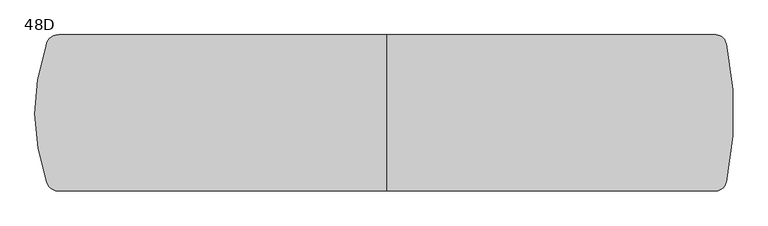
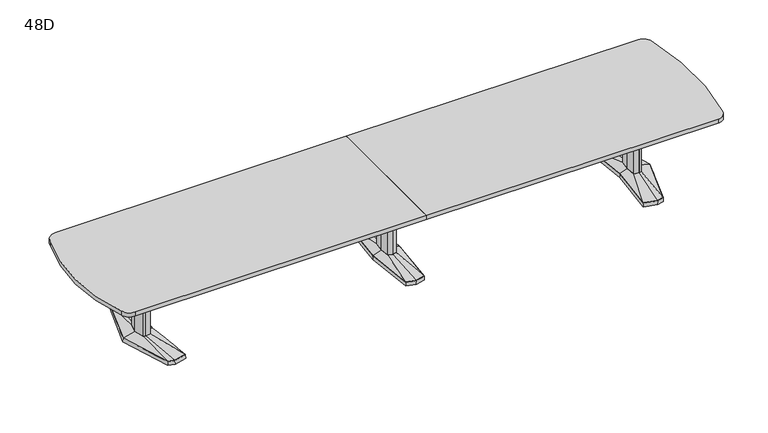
"""IFC4 building model written with IfcOpenShell, lengths in millimetres: furniture geometry, Coalesse_AM_Table_Conference_ETable2_SoftRadiused_18ft_AluminiumBase : 48D."""

from ifc_helpers import new_model, si_unit, point, frame, frame_2d, origin, place, context, project, spatial, polyline, circle_curve, trimmed, segment, composite_curve, outline, extrude, faceted_brep, source, transform, mapped, element, save
from ifc_brep_helpers import plane_surface, spline_surface, advanced_brep


def furniture_48d_4548b4cb(model_context):
    return source(origin(), model_context, "Body", "SolidModel", [
        faceted_brep([(-81.2333791, -433.8053819, 38.1), (0.0, -455.556576, 38.1), (81.2333791, -433.8053819, 38.1), (119.0564774, 0.0, 38.1), (81.2333791, 433.8053819, 38.1), (0.0, 455.556576, 38.1), (-81.2333791, 433.8053819, 38.1), (-119.0564774, 0.0, 38.1), (-82.7182795, -435.0512063, 3.175), (-120.65, 0.0, 3.175), (-82.7182795, 435.0512063, 3.175), (0.0, 457.2, 3.175), (82.7182795, 435.0512063, 3.175), (120.65, 0.0, 3.175), (82.7182795, -435.0512063, 3.175), (0.0, -457.2, 3.175), (0.0, 429.2617927, 3.175), (-77.9676806, 408.3850278, 3.175), (-74.7019821, 382.9646737, 3.175), (0.0, 402.9670094, 3.175), (74.7019821, 382.9646737, 3.175), (77.9676806, 408.3850278, 3.175), (0.0, -429.2617927, 3.175), (77.9676806, -408.3850278, 3.175), (74.7019821, -382.9646737, 3.175), (0.0, -402.9670094, 3.175), (-74.7019821, -382.9646737, 3.175), (-77.9676806, -408.3850278, 3.175), (-71.8574262, 114.6326257, 3.175), (-82.5426076, 0.0, 3.175), (-71.8574262, -114.6326257, 3.175), (0.0, -133.8761372, 3.175), (71.8574262, -114.6326257, 3.175), (82.5426076, 0.0, 3.175), (71.8574262, 114.6326257, 3.175), (0.0, 133.8761372, 3.175), (0.0, 429.2617927, 0.0), (77.9676806, 408.3850278, 0.0), (74.7019821, 382.9646737, 0.0), (0.0, 402.9670094, 0.0), (-74.7019821, 382.9646737, 0.0), (-77.9676806, 408.3850278, 0.0), (0.0, -429.2617927, 0.0), (-77.9676806, -408.3850278, 0.0), (-74.7019821, -382.9646737, 0.0), (0.0, -402.9670094, 0.0), (74.7019821, -382.9646737, 0.0), (77.9676806, -408.3850278, 0.0), (-71.8574262, 114.6326257, 0.0), (0.0, 133.8761372, 0.0), (71.8574262, 114.6326257, 0.0), (82.5426076, 0.0, 0.0), (71.8574262, -114.6326257, 0.0), (0.0, -133.8761372, 0.0), (-71.8574262, -114.6326257, 0.0), (-82.5426076, 0.0, 0.0)], [[[0, 1, 2, 3, 4, 5, 6, 7]], [[8, 9, 10, 11, 12, 13, 14, 15], [16, 17, 18, 19, 20, 21], [22, 23, 24, 25, 26, 27], [28, 29, 30, 31, 32, 33, 34, 35]], [[1, 0, 8, 15]], [[2, 1, 15, 14]], [[3, 2, 14, 13]], [[4, 3, 13, 12]], [[5, 4, 12, 11]], [[6, 5, 11, 10]], [[7, 6, 10, 9]], [[0, 7, 9, 8]], [[36, 37, 38, 39, 40, 41]], [[42, 43, 44, 45, 46, 47]], [[48, 49, 50, 51, 52, 53, 54, 55]], [[36, 41, 17, 16]], [[41, 40, 18, 17]], [[40, 39, 19, 18]], [[39, 38, 20, 19]], [[38, 37, 21, 20]], [[37, 36, 16, 21]], [[42, 47, 23, 22]], [[47, 46, 24, 23]], [[46, 45, 25, 24]], [[45, 44, 26, 25]], [[44, 43, 27, 26]], [[43, 42, 22, 27]], [[48, 55, 29, 28]], [[55, 54, 30, 29]], [[54, 53, 31, 30]], [[53, 52, 32, 31]], [[52, 51, 33, 32]], [[51, 50, 34, 33]], [[50, 49, 35, 34]], [[49, 48, 28, 35]]]),
        faceted_brep([(-36.3832834, 84.6900825, 698.5), (-44.2774487, 0.0, 698.5), (-36.3832834, -84.6900825, 698.5), (0.0, -94.4335728, 698.5), (36.3832834, -84.6900825, 698.5), (44.2774487, 0.0, 698.5), (36.3832834, 84.6900825, 698.5), (0.0, 94.4335728, 698.5), (-36.3832834, 84.6900825, 63.5), (0.0, 94.4335728, 63.5), (36.3832834, 84.6900825, 63.5), (44.2774487, 0.0, 63.5), (36.3832834, -84.6900825, 63.5), (0.0, -94.4335728, 63.5), (-36.3832834, -84.6900825, 63.5), (-44.2774487, 0.0, 63.5)], [[[0, 1, 2, 3, 4, 5, 6, 7]], [[8, 9, 10, 11, 12, 13, 14, 15]], [[1, 0, 8, 15]], [[2, 1, 15, 14]], [[3, 2, 14, 13]], [[4, 3, 13, 12]], [[5, 4, 12, 11]], [[6, 5, 11, 10]], [[7, 6, 10, 9]], [[0, 7, 9, 8]]]),
        advanced_brep(
        [(-36.3832834, 84.6900825, 63.5), (-44.2774487, 0.0, 63.5), (-36.3832834, -84.6900825, 63.5), (0.0, -94.4335728, 63.5), (36.3832834, -84.6900825, 63.5), (44.2774487, 0.0, 63.5), (36.3832834, 84.6900825, 63.5), (0.0, 94.4335728, 63.5), (-81.2333791, 433.8053819, 38.1), (0.0, 455.556576, 38.1), (81.2333791, 433.8053819, 38.1), (119.0564774, 0.0, 38.1), (81.2333791, -433.8053819, 38.1), (0.0, -455.556576, 38.1), (-81.2333791, -433.8053819, 38.1), (-119.0564774, 0.0, 38.1)],
        [
            (0, 1),
            (1, 2),
            (2, 3),
            (3, 4),
            (4, 5),
            (5, 6),
            (6, 7),
            (7, 0),
            (8, 9),
            (9, 10),
            (10, 11),
            (11, 12),
            (12, 13),
            (13, 14),
            (14, 15),
            (15, 8),
            (15, 1),
            (0, 8),
            (14, 2),
            (13, 3),
            (12, 4),
            (11, 5),
            (10, 6),
            (9, 7),
        ],
        [
            plane_surface(frame((0.0, 0.0, 63.5), z_axis=(0.0, 0.0, 1.0000000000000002), x_axis=(-0.9659615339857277, -0.25868574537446, 0.0))),
            plane_surface(frame((0.0, 0.0, 38.1), z_axis=(0.0, 0.0, -1.0000000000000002), x_axis=(-0.9659615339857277, -0.25868574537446, 0.0))),
            spline_surface(1, 1, [[(-81.2333791, 433.8053819, 38.1), (-36.3832834, 84.6900825, 63.5)], [(-119.0564774, 0.0, 38.1), (-44.2774487, 0.0, 63.5)]], [2, 2], [2, 2], [0.0, 1.0], [0.0, 1.0]),
            spline_surface(1, 1, [[(-119.0564774, 0.0, 38.1), (-44.2774487, 0.0, 63.5)], [(-81.2333791, -433.8053819, 38.1), (-36.3832834, -84.6900825, 63.5)]], [2, 2], [2, 2], [0.0, 1.0], [0.0, 1.0]),
            spline_surface(1, 1, [[(-81.2333791, -433.8053819, 38.1), (-36.3832834, -84.6900825, 63.5)], [(0.0, -455.556576, 38.1), (0.0, -94.4335728, 63.5)]], [2, 2], [2, 2], [0.0, 1.0], [0.0, 1.0]),
            spline_surface(1, 1, [[(0.0, -455.556576, 38.1), (0.0, -94.4335728, 63.5)], [(81.2333791, -433.8053819, 38.1), (36.3832834, -84.6900825, 63.5)]], [2, 2], [2, 2], [0.0, 1.0], [0.0, 1.0]),
            spline_surface(1, 1, [[(81.2333791, -433.8053819, 38.1), (36.3832834, -84.6900825, 63.5)], [(119.0564774, 0.0, 38.1), (44.2774487, 0.0, 63.5)]], [2, 2], [2, 2], [0.0, 1.0], [0.0, 1.0]),
            spline_surface(1, 1, [[(119.0564774, 0.0, 38.1), (44.2774487, 0.0, 63.5)], [(81.2333791, 433.8053819, 38.1), (36.3832834, 84.6900825, 63.5)]], [2, 2], [2, 2], [0.0, 1.0], [0.0, 1.0]),
            spline_surface(1, 1, [[(81.2333791, 433.8053819, 38.1), (36.3832834, 84.6900825, 63.5)], [(0.0, 455.556576, 38.1), (0.0, 94.4335728, 63.5)]], [2, 2], [2, 2], [0.0, 1.0], [0.0, 1.0]),
            spline_surface(1, 1, [[(0.0, 455.556576, 38.1), (0.0, 94.4335728, 63.5)], [(-81.2333791, 433.8053819, 38.1), (-36.3832834, 84.6900825, 63.5)]], [2, 2], [2, 2], [0.0, 1.0], [0.0, 1.0]),
        ],
        [
            (0, [[1, 2, 3, 4, 5, 6, 7, 8]]),
            (1, [[9, 10, 11, 12, 13, 14, 15, 16]]),
            (2, [[-16, 17, -1, 18]]),
            (3, [[-15, 19, -2, -17]]),
            (4, [[-14, 20, -3, -19]]),
            (5, [[-13, 21, -4, -20]]),
            (6, [[-12, 22, -5, -21]]),
            (7, [[-11, 23, -6, -22]]),
            (8, [[-10, 24, -7, -23]]),
            (9, [[-9, -18, -8, -24]]),
        ],
    ),
        faceted_brep([(2125.0306835, 455.5848221, 38.1), (2015.4531277, 426.2263816, 38.1), (2056.6163717, 0.0, 38.1), (2015.4531277, -426.2263816, 38.1), (2125.0306835, -455.5848221, 38.1), (2181.1570396, -440.5478297, 38.1), (2318.4684269, 0.0, 38.1), (2181.1570396, 440.5478297, 38.1), (2125.0306754, 457.2283104, 3.175), (2182.4124472, 441.8549756, 3.175), (2320.13125, 0.0, 3.175), (2182.4124472, -441.8549756, 3.175), (2125.0306754, -457.2283104, 3.175), (2013.74375, -427.4118891, 3.175), (2055.0214856, 0.0, 3.175), (2013.74375, 427.4118891, 3.175), (2128.620115, 428.3273875, 3.175), (2023.5718228, 402.1057253, 3.175), (2031.690518, 377.985069, 3.175), (2132.2095466, 401.0699529, 3.175), (2182.7691725, 387.524361, 3.175), (2181.9631061, 414.0360954, 3.175), (2128.620115, -428.3273875, 3.175), (2181.9631061, -414.0360954, 3.175), (2182.7691725, -387.524361, 3.175), (2132.2095466, -401.0699529, 3.175), (2031.690518, -377.985069, 3.175), (2023.5718228, -402.1057253, 3.175), (2255.2153621, 0.0, 3.175), (2222.9459611, 120.4193755, 3.175), (2174.2987222, 133.471665, 3.175), (2094.4180526, 119.4176561, 3.175), (2083.2868466, 0.0, 3.175), (2094.4180526, -119.4176561, 3.175), (2174.2987222, -133.471665, 3.175), (2222.9459611, -120.4193755, 3.175), (2128.620115, 428.3273875, 0.0), (2181.9631061, 414.0360954, 0.0), (2182.7691725, 387.524361, 0.0), (2132.2095466, 401.0699529, 0.0), (2031.690518, 377.985069, 0.0), (2023.5718228, 402.1057253, 0.0), (2128.620115, -428.3273875, 0.0), (2023.5718228, -402.1057253, 0.0), (2031.690518, -377.985069, 0.0), (2132.2095466, -401.0699529, 0.0), (2182.7691725, -387.524361, 0.0), (2181.9631061, -414.0360954, 0.0), (2255.2153621, 0.0, 0.0), (2222.9459611, -120.4193755, 0.0), (2174.2987222, -133.471665, 0.0), (2094.4180526, -119.4176561, 0.0), (2083.2868466, 0.0, 0.0), (2094.4180526, 119.4176561, 0.0), (2174.2987222, 133.471665, 0.0), (2222.9459611, 120.4193755, 0.0)], [[[0, 1, 2, 3, 4, 5, 6, 7]], [[8, 9, 10, 11, 12, 13, 14, 15], [16, 17, 18, 19, 20, 21], [22, 23, 24, 25, 26, 27], [28, 29, 30, 31, 32, 33, 34, 35]], [[7, 9, 8, 0]], [[6, 10, 9, 7]], [[5, 11, 10, 6]], [[4, 12, 11, 5]], [[3, 13, 12, 4]], [[2, 14, 13, 3]], [[1, 15, 14, 2]], [[0, 8, 15, 1]], [[36, 37, 38, 39, 40, 41]], [[42, 43, 44, 45, 46, 47]], [[48, 49, 50, 51, 52, 53, 54, 55]], [[36, 16, 21, 37]], [[37, 21, 20, 38]], [[38, 20, 19, 39]], [[39, 19, 18, 40]], [[40, 18, 17, 41]], [[41, 17, 16, 36]], [[42, 22, 27, 43]], [[43, 27, 26, 44]], [[44, 26, 25, 45]], [[45, 25, 24, 46]], [[46, 24, 23, 47]], [[47, 23, 22, 42]], [[48, 28, 35, 49]], [[49, 35, 34, 50]], [[50, 34, 33, 51]], [[51, 33, 32, 52]], [[52, 32, 31, 53]], [[53, 31, 30, 54]], [[54, 30, 29, 55]], [[55, 29, 28, 48]]]),
        faceted_brep([(2215.7710836, 0.0, 698.5), (2191.8358546, 89.3188359, 698.5), (2174.9824984, 93.8406728, 698.5), (2172.5826511, 94.4845635, 698.5), (2129.655146, 86.9320037, 698.5), (2121.5520056, 0.0, 698.5), (2129.655146, -86.9320037, 698.5), (2172.5826511, -94.4845635, 698.5), (2174.9824984, -93.8406728, 698.5), (2191.8358546, -89.3188359, 698.5), (2215.7710836, 0.0, 63.5), (2191.8358546, -89.3188359, 63.5), (2174.9824984, -93.8406728, 63.5), (2172.5826511, -94.4845635, 63.5), (2129.655146, -86.9320037, 63.5), (2121.5520056, 0.0, 63.5), (2129.655146, 86.9320037, 63.5), (2172.5826511, 94.4845635, 63.5), (2174.9824984, 93.8406728, 63.5), (2191.8358546, 89.3188359, 63.5)], [[[0, 1, 2, 3, 4, 5, 6, 7, 8, 9]], [[10, 11, 12, 13, 14, 15, 16, 17, 18, 19]], [[9, 11, 10, 0]], [[8, 12, 11, 9]], [[7, 13, 12, 8]], [[6, 14, 13, 7]], [[5, 15, 14, 6]], [[4, 16, 15, 5]], [[3, 17, 16, 4]], [[2, 18, 17, 3]], [[1, 19, 18, 2]], [[0, 10, 19, 1]]]),
        advanced_brep(
        [(2172.5826511, 94.4845635, 63.5), (2129.655146, 86.9320037, 63.5), (2121.5520056, 0.0, 63.5), (2129.655146, -86.9320037, 63.5), (2172.5826511, -94.4845635, 63.5), (2191.8358546, -89.3188359, 63.5), (2215.7710836, 0.0, 63.5), (2191.8358546, 89.3188359, 63.5), (2125.0306835, 455.5848221, 38.1), (2181.1570396, 440.5478297, 38.1), (2318.4684269, 0.0, 38.1), (2181.1570396, -440.5478297, 38.1), (2125.0306835, -455.5848221, 38.1), (2015.4531277, -426.2263816, 38.1), (2056.6163717, 0.0, 38.1), (2015.4531277, 426.2263816, 38.1)],
        [
            (0, 1),
            (1, 2),
            (2, 3),
            (3, 4),
            (4, 5),
            (5, 6),
            (6, 7),
            (7, 0),
            (8, 9),
            (9, 10),
            (10, 11),
            (11, 12),
            (12, 13),
            (13, 14),
            (14, 15),
            (15, 8),
            (8, 0),
            (7, 9),
            (6, 10),
            (5, 11),
            (4, 12),
            (3, 13),
            (2, 14),
            (1, 15),
        ],
        [
            plane_surface(frame((2165.6837991, 0.0, 63.5), z_axis=(0.0, 0.0, 1.0), x_axis=(-0.25884244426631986, -0.9659195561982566, 0.0))),
            plane_surface(frame((2127.2958125, 0.0, 38.1), z_axis=(0.0, 0.0, -1.0), x_axis=(-0.25884244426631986, -0.9659195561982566, 0.0))),
            spline_surface(1, 1, [[(2125.0306835, 455.5848221, 38.1), (2181.1570396, 440.5478297, 38.1)], [(2172.5826511, 94.4845635, 63.5), (2191.8358546, 89.3188359, 63.5)]], [2, 2], [2, 2], [0.0, 1.0], [0.0, 1.0]),
            spline_surface(1, 1, [[(2181.1570396, 440.5478297, 38.1), (2318.4684269, 0.0, 38.1)], [(2191.8358546, 89.3188359, 63.5), (2215.7710836, 0.0, 63.5)]], [2, 2], [2, 2], [0.0, 1.0], [0.0, 1.0]),
            spline_surface(1, 1, [[(2318.4684269, 0.0, 38.1), (2181.1570396, -440.5478297, 38.1)], [(2215.7710836, 0.0, 63.5), (2191.8358546, -89.3188359, 63.5)]], [2, 2], [2, 2], [0.0, 1.0], [0.0, 1.0]),
            spline_surface(1, 1, [[(2181.1570396, -440.5478297, 38.1), (2125.0306835, -455.5848221, 38.1)], [(2191.8358546, -89.3188359, 63.5), (2172.5826511, -94.4845635, 63.5)]], [2, 2], [2, 2], [0.0, 1.0], [0.0, 1.0]),
            spline_surface(1, 1, [[(2125.0306835, -455.5848221, 38.1), (2015.4531277, -426.2263816, 38.1)], [(2172.5826511, -94.4845635, 63.5), (2129.655146, -86.9320037, 63.5)]], [2, 2], [2, 2], [0.0, 1.0], [0.0, 1.0]),
            spline_surface(1, 1, [[(2015.4531277, -426.2263816, 38.1), (2056.6163717, 0.0, 38.1)], [(2129.655146, -86.9320037, 63.5), (2121.5520056, 0.0, 63.5)]], [2, 2], [2, 2], [0.0, 1.0], [0.0, 1.0]),
            spline_surface(1, 1, [[(2056.6163717, 0.0, 38.1), (2015.4531277, 426.2263816, 38.1)], [(2121.5520056, 0.0, 63.5), (2129.655146, 86.9320037, 63.5)]], [2, 2], [2, 2], [0.0, 1.0], [0.0, 1.0]),
            spline_surface(1, 1, [[(2015.4531277, 426.2263816, 38.1), (2125.0306835, 455.5848221, 38.1)], [(2129.655146, 86.9320037, 63.5), (2172.5826511, 94.4845635, 63.5)]], [2, 2], [2, 2], [0.0, 1.0], [0.0, 1.0]),
        ],
        [
            (0, [[1, 2, 3, 4, 5, 6, 7, 8]]),
            (1, [[9, 10, 11, 12, 13, 14, 15, 16]]),
            (2, [[17, -8, 18, -9]]),
            (3, [[-18, -7, 19, -10]]),
            (4, [[-19, -6, 20, -11]]),
            (5, [[-20, -5, 21, -12]]),
            (6, [[-21, -4, 22, -13]]),
            (7, [[-22, -3, 23, -14]]),
            (8, [[-23, -2, 24, -15]]),
            (9, [[-24, -1, -17, -16]]),
        ],
    ),
        faceted_brep([(-2125.0306835, 455.5848221, 38.1), (-2181.1570396, 440.5478297, 38.1), (-2318.4684269, 0.0, 38.1), (-2181.1570396, -440.5478297, 38.1), (-2125.0306835, -455.5848221, 38.1), (-2015.4531277, -426.2263816, 38.1), (-2056.6163717, 0.0, 38.1), (-2015.4531277, 426.2263816, 38.1), (-2125.0306754, 457.2283104, 3.175), (-2013.74375, 427.4118891, 3.175), (-2055.0214856, 0.0, 3.175), (-2013.74375, -427.4118891, 3.175), (-2125.0306754, -457.2283104, 3.175), (-2182.4124472, -441.8549756, 3.175), (-2320.13125, 0.0, 3.175), (-2182.4124472, 441.8549756, 3.175), (-2128.620115, 428.3273875, 3.175), (-2181.9631061, 414.0360954, 3.175), (-2182.7691725, 387.524361, 3.175), (-2132.2095466, 401.0699529, 3.175), (-2031.690518, 377.985069, 3.175), (-2023.5718228, 402.1057253, 3.175), (-2128.620115, -428.3273875, 3.175), (-2023.5718228, -402.1057253, 3.175), (-2031.690518, -377.985069, 3.175), (-2132.2095466, -401.0699529, 3.175), (-2182.7691725, -387.524361, 3.175), (-2181.9631061, -414.0360954, 3.175), (-2255.2153621, 0.0, 3.175), (-2222.9459611, -120.4193755, 3.175), (-2174.2987222, -133.471665, 3.175), (-2094.4180526, -119.4176561, 3.175), (-2083.2868466, 0.0, 3.175), (-2094.4180526, 119.4176561, 3.175), (-2174.2987222, 133.471665, 3.175), (-2222.9459611, 120.4193755, 3.175), (-2128.620115, 428.3273875, 0.0), (-2023.5718228, 402.1057253, 0.0), (-2031.690518, 377.985069, 0.0), (-2132.2095466, 401.0699529, 0.0), (-2182.7691725, 387.524361, 0.0), (-2181.9631061, 414.0360954, 0.0), (-2128.620115, -428.3273875, 0.0), (-2181.9631061, -414.0360954, 0.0), (-2182.7691725, -387.524361, 0.0), (-2132.2095466, -401.0699529, 0.0), (-2031.690518, -377.985069, 0.0), (-2023.5718228, -402.1057253, 0.0), (-2255.2153621, 0.0, 0.0), (-2222.9459611, 120.4193755, 0.0), (-2174.2987222, 133.471665, 0.0), (-2094.4180526, 119.4176561, 0.0), (-2083.2868466, 0.0, 0.0), (-2094.4180526, -119.4176561, 0.0), (-2174.2987222, -133.471665, 0.0), (-2222.9459611, -120.4193755, 0.0)], [[[0, 1, 2, 3, 4, 5, 6, 7]], [[8, 9, 10, 11, 12, 13, 14, 15], [16, 17, 18, 19, 20, 21], [22, 23, 24, 25, 26, 27], [28, 29, 30, 31, 32, 33, 34, 35]], [[1, 0, 8, 15]], [[2, 1, 15, 14]], [[3, 2, 14, 13]], [[4, 3, 13, 12]], [[5, 4, 12, 11]], [[6, 5, 11, 10]], [[7, 6, 10, 9]], [[0, 7, 9, 8]], [[36, 37, 38, 39, 40, 41]], [[42, 43, 44, 45, 46, 47]], [[48, 49, 50, 51, 52, 53, 54, 55]], [[36, 41, 17, 16]], [[41, 40, 18, 17]], [[40, 39, 19, 18]], [[39, 38, 20, 19]], [[38, 37, 21, 20]], [[37, 36, 16, 21]], [[42, 47, 23, 22]], [[47, 46, 24, 23]], [[46, 45, 25, 24]], [[45, 44, 26, 25]], [[44, 43, 27, 26]], [[43, 42, 22, 27]], [[48, 55, 29, 28]], [[55, 54, 30, 29]], [[54, 53, 31, 30]], [[53, 52, 32, 31]], [[52, 51, 33, 32]], [[51, 50, 34, 33]], [[50, 49, 35, 34]], [[49, 48, 28, 35]]]),
        faceted_brep([(-2215.7710836, 0.0, 698.5), (-2191.8358546, -89.3188359, 698.5), (-2174.9824984, -93.8406728, 698.5), (-2172.5826511, -94.4845635, 698.5), (-2129.655146, -86.9320037, 698.5), (-2121.5520056, 0.0, 698.5), (-2129.655146, 86.9320037, 698.5), (-2172.5826511, 94.4845635, 698.5), (-2174.9824984, 93.8406728, 698.5), (-2191.8358546, 89.3188359, 698.5), (-2215.7710836, 0.0, 63.5), (-2191.8358546, 89.3188359, 63.5), (-2174.9824984, 93.8406728, 63.5), (-2172.5826511, 94.4845635, 63.5), (-2129.655146, 86.9320037, 63.5), (-2121.5520056, 0.0, 63.5), (-2129.655146, -86.9320037, 63.5), (-2172.5826511, -94.4845635, 63.5), (-2174.9824984, -93.8406728, 63.5), (-2191.8358546, -89.3188359, 63.5)], [[[0, 1, 2, 3, 4, 5, 6, 7, 8, 9]], [[10, 11, 12, 13, 14, 15, 16, 17, 18, 19]], [[1, 0, 10, 19]], [[2, 1, 19, 18]], [[3, 2, 18, 17]], [[4, 3, 17, 16]], [[5, 4, 16, 15]], [[6, 5, 15, 14]], [[7, 6, 14, 13]], [[8, 7, 13, 12]], [[9, 8, 12, 11]], [[0, 9, 11, 10]]]),
        advanced_brep(
        [(-2172.5826511, 94.4845635, 63.5), (-2191.8358546, 89.3188359, 63.5), (-2215.7710836, 0.0, 63.5), (-2191.8358546, -89.3188359, 63.5), (-2172.5826511, -94.4845635, 63.5), (-2129.655146, -86.9320037, 63.5), (-2121.5520056, 0.0, 63.5), (-2129.655146, 86.9320037, 63.5), (-2125.0306835, 455.5848221, 38.1), (-2015.4531277, 426.2263816, 38.1), (-2056.6163717, 0.0, 38.1), (-2015.4531277, -426.2263816, 38.1), (-2125.0306835, -455.5848221, 38.1), (-2181.1570396, -440.5478297, 38.1), (-2318.4684269, 0.0, 38.1), (-2181.1570396, 440.5478297, 38.1)],
        [
            (0, 1),
            (1, 2),
            (2, 3),
            (3, 4),
            (4, 5),
            (5, 6),
            (6, 7),
            (7, 0),
            (8, 9),
            (9, 10),
            (10, 11),
            (11, 12),
            (12, 13),
            (13, 14),
            (14, 15),
            (15, 8),
            (15, 1),
            (0, 8),
            (14, 2),
            (13, 3),
            (12, 4),
            (11, 5),
            (10, 6),
            (9, 7),
        ],
        [
            plane_surface(frame((-2165.6837991, 0.0, 63.5), z_axis=(0.0, 0.0, 1.0), x_axis=(0.25884244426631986, -0.9659195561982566, 0.0))),
            plane_surface(frame((-2127.2958125, 0.0, 38.1), z_axis=(0.0, 0.0, -1.0), x_axis=(0.25884244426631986, -0.9659195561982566, 0.0))),
            spline_surface(1, 1, [[(-2125.0306835, 455.5848221, 38.1), (-2172.5826511, 94.4845635, 63.5)], [(-2181.1570396, 440.5478297, 38.1), (-2191.8358546, 89.3188359, 63.5)]], [2, 2], [2, 2], [0.0, 1.0], [0.0, 1.0]),
            spline_surface(1, 1, [[(-2181.1570396, 440.5478297, 38.1), (-2191.8358546, 89.3188359, 63.5)], [(-2318.4684269, 0.0, 38.1), (-2215.7710836, 0.0, 63.5)]], [2, 2], [2, 2], [0.0, 1.0], [0.0, 1.0]),
            spline_surface(1, 1, [[(-2318.4684269, 0.0, 38.1), (-2215.7710836, 0.0, 63.5)], [(-2181.1570396, -440.5478297, 38.1), (-2191.8358546, -89.3188359, 63.5)]], [2, 2], [2, 2], [0.0, 1.0], [0.0, 1.0]),
            spline_surface(1, 1, [[(-2181.1570396, -440.5478297, 38.1), (-2191.8358546, -89.3188359, 63.5)], [(-2125.0306835, -455.5848221, 38.1), (-2172.5826511, -94.4845635, 63.5)]], [2, 2], [2, 2], [0.0, 1.0], [0.0, 1.0]),
            spline_surface(1, 1, [[(-2125.0306835, -455.5848221, 38.1), (-2172.5826511, -94.4845635, 63.5)], [(-2015.4531277, -426.2263816, 38.1), (-2129.655146, -86.9320037, 63.5)]], [2, 2], [2, 2], [0.0, 1.0], [0.0, 1.0]),
            spline_surface(1, 1, [[(-2015.4531277, -426.2263816, 38.1), (-2129.655146, -86.9320037, 63.5)], [(-2056.6163717, 0.0, 38.1), (-2121.5520056, 0.0, 63.5)]], [2, 2], [2, 2], [0.0, 1.0], [0.0, 1.0]),
            spline_surface(1, 1, [[(-2056.6163717, 0.0, 38.1), (-2121.5520056, 0.0, 63.5)], [(-2015.4531277, 426.2263816, 38.1), (-2129.655146, 86.9320037, 63.5)]], [2, 2], [2, 2], [0.0, 1.0], [0.0, 1.0]),
            spline_surface(1, 1, [[(-2015.4531277, 426.2263816, 38.1), (-2129.655146, 86.9320037, 63.5)], [(-2125.0306835, 455.5848221, 38.1), (-2172.5826511, 94.4845635, 63.5)]], [2, 2], [2, 2], [0.0, 1.0], [0.0, 1.0]),
        ],
        [
            (0, [[1, 2, 3, 4, 5, 6, 7, 8]]),
            (1, [[9, 10, 11, 12, 13, 14, 15, 16]]),
            (2, [[-16, 17, -1, 18]]),
            (3, [[-15, 19, -2, -17]]),
            (4, [[-14, 20, -3, -19]]),
            (5, [[-13, 21, -4, -20]]),
            (6, [[-12, 22, -5, -21]]),
            (7, [[-11, 23, -6, -22]]),
            (8, [[-10, 24, -7, -23]]),
            (9, [[-9, -18, -8, -24]]),
        ],
    ),
        extrude(outline(polyline([(96.8375, 698.5), (103.1875, 698.5), (103.1875, 476.25), (-103.1875, 476.25), (-103.1875, 698.5), (-96.8375, 698.5), (-96.8375, 482.6), (96.8375, 482.6), (96.8375, 698.5)])), frame((44.2774487, 0.0, 0.0), z_axis=(1.0, 0.0, 0.0), x_axis=(0.0, 1.0, 0.0)), (0.0, 0.0, 1.0), 2077.4163013),
        extrude(outline(composite_curve([segment(polyline([(0.0, 609.6), (0.0, -609.6), (-2563.7617771, -609.6)]), True, "CONTINUOUS"), segment(trimmed(circle_curve(frame_2d((-2563.7617771, -521.0532728)), 88.5467272), [point((-2563.7617771, -609.6))], [point((-2649.7932067, -542.0083682))], False, "CARTESIAN"), True, "CONTINUOUS"), segment(trimmed(circle_curve(frame_2d((-1123.95, 0.0)), 1619.25), [point((-2649.7932067, -542.0083682))], [point((-2655.8665695, 524.5971661))], False, "CARTESIAN"), True, "CONTINUOUS"), segment(trimmed(circle_curve(frame_2d((-2558.7602226, 511.6319464)), 97.9680536), [point((-2655.8665695, 524.5971661))], [point((-2558.7602226, 609.6))], False, "CARTESIAN"), True, "CONTINUOUS"), segment(polyline([(-2558.7602226, 609.6), (0.0, 609.6)]), True, "CONTINUOUS")], self_intersect=False)), frame((0.0, 0.0, 698.5), z_axis=(0.0, 0.0, 1.0), x_axis=(1.0, 0.0, 0.0)), (0.0, 0.0, 1.0), 38.1),
        extrude(outline(composite_curve([segment(trimmed(circle_curve(frame_2d((115.2979315, 0.0)), 2591.8023402), [point((2649.7932067, 542.0083682))], [point((2649.7932067, -542.0083682))], False, "CARTESIAN"), True, "CONTINUOUS"), segment(trimmed(circle_curve(frame_2d((2568.9605731, -527.4704298)), 82.1295702), [point((2649.7932067, -542.0083682))], [point((2568.9605731, -609.6))], False, "CARTESIAN"), True, "CONTINUOUS"), segment(polyline([(2568.9605731, -609.6), (0.0, -609.6), (0.0, 609.6), (2568.9605731, 609.6)]), True, "CONTINUOUS"), segment(trimmed(circle_curve(frame_2d((2568.9605731, 527.4704298)), 82.1295702), [point((2568.9605731, 609.6))], [point((2649.7932067, 542.0083682))], False, "CARTESIAN"), True, "CONTINUOUS")], self_intersect=False)), frame((0.0, 0.0, 698.5), z_axis=(0.0, 0.0, 1.0), x_axis=(1.0, 0.0, 0.0)), (0.0, 0.0, 1.0), 38.1),
        extrude(outline(polyline([(96.8375, 698.5), (103.1875, 698.5), (103.1875, 476.25), (-103.1875, 476.25), (-103.1875, 698.5), (-96.8375, 698.5), (-96.8375, 482.6), (96.8375, 482.6), (96.8375, 698.5)])), frame((-2121.69375, 0.0, 0.0), z_axis=(1.0, 0.0, 0.0), x_axis=(0.0, 1.0, 0.0)), (0.0, 0.0, 1.0), 2077.4163013),
    ])


if __name__ == "__main__":
    model = new_model("IFC4")
    model_context = context("Model", 3, world=origin())
    ifc_project = project(units=[si_unit("LENGTHUNIT", "METRE", prefix="MILLI")], contexts=[model_context])
    site = spatial("IfcSite", under=ifc_project)
    building = spatial("IfcBuilding", under=site)
    placement = place(None, origin())
    furniture_48d_shape = furniture_48d_4548b4cb(model_context)
    element("IfcFurniture", 1, ObjectType="Coalesse_AM_Table_Conference_ETable2_SoftRadiused_18ft_AluminiumBase : 48D", at=placement, inside=building, context=model_context, shape_type="MappedRepresentation", body=[
        mapped(furniture_48d_shape, transform((0.0, 0.0, 0.0), x_axis=(1.0, 0.0, 0.0), y_axis=(0.0, 1.0, 0.0), z_axis=(0.0, 0.0, 1.0))),
    ])
    save(model, "model.ifc")
